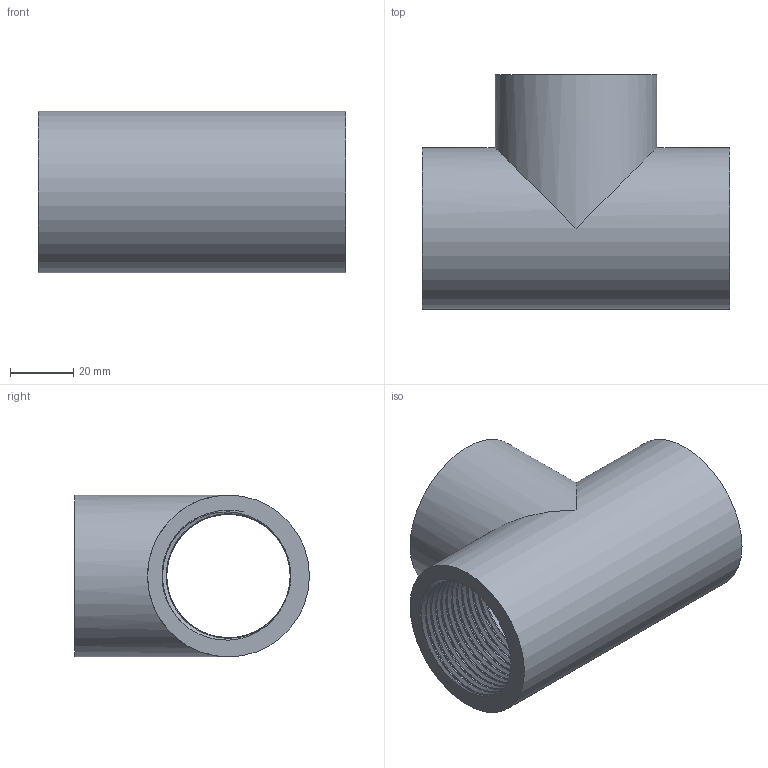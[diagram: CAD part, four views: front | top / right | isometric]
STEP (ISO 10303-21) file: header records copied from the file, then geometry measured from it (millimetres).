
FILE_DESCRIPTION(/* description */ ('(descrizione)'),/* implementation_level */ '2;1');
FILE_NAME(/* name */ 'C:\Users\POLYPIPE\Desktop\DATASET INVENTOR\LIBRERIA EFFAST\RACCORDI 3DxWEB\RER\3D_RERTIE\3D_RERTIE040E.stp',/* time_stamp */ '2018-01-19T17:20:47+01:00',/* author */ ('POLYPIPE'),/* organization */ ('Polypipe Italia s.r.l.'),/* preprocessor_version */ 'ST-DEVELOPER v16.1',/* originating_system */ 'Autodesk Inventor 2016',/* authorisation */ '');
FILE_SCHEMA (('CONFIG_CONTROL_DESIGN'));
Length unit declared in the file: millimetre
Products named in the file (1): 3D_RERTIE
Bounding box: 97 x 74 x 51 mm (x, y, z)
Volume: 91735.3 mm3; surface area: 42898.1 mm2
Topology: 1 solids, 1 shells, 25 faces, 70 edges, 46 vertices
Faces by surface type: bspline 15, plane 6, cylinder 4
Full cylindrical faces by diameter (mm): 38.952 x2, 51 x2
Entity records: 14099 total; most frequent: CARTESIAN_POINT 13582, ORIENTED_EDGE 116, DIRECTION 63, EDGE_CURVE 58, VERTEX_POINT 40, EDGE_LOOP 34, B_SPLINE_CURVE_WITH_KNOTS 33, AXIS2_PLACEMENT_3D 27
